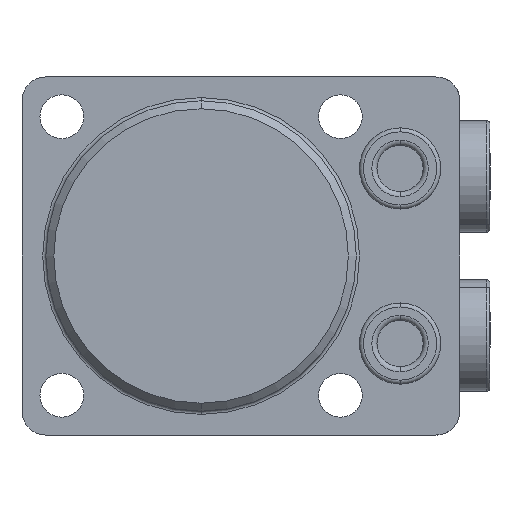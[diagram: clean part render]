
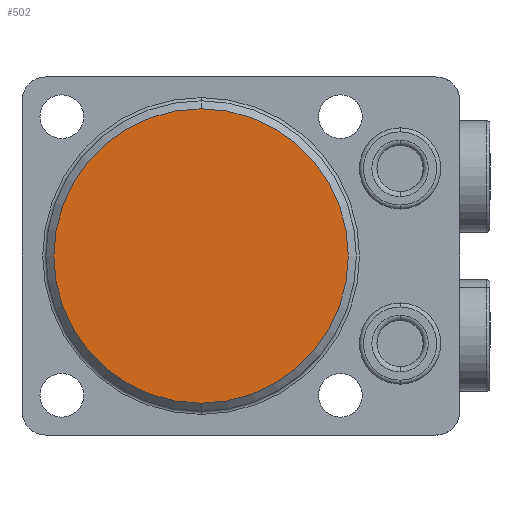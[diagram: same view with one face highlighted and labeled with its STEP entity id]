
A CAD part, front view. The second image highlights one B-rep face of the part: STEP entity #502.
In plain terms, the highlighted planar face has unit normal (0, -1, 0) as drawn and (0, 1, 0) by its records, which use the part's own axes.
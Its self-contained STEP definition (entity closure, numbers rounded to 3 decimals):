
#220=PLANE('',#3261);
#502=ADVANCED_FACE('',(#710),#220,.T.);
#710=FACE_OUTER_BOUND('',#898,.F.);
#898=EDGE_LOOP('',(#1889,#1890));
#1889=ORIENTED_EDGE('',*,*,#2725,.T.);
#1890=ORIENTED_EDGE('',*,*,#2664,.T.);
#2313=VERTEX_POINT('',#5058);
#2314=VERTEX_POINT('',#5059);
#2664=EDGE_CURVE('',#2313,#2314,#2917,.T.);
#2725=EDGE_CURVE('',#2314,#2313,#2939,.T.);
#2917=CIRCLE('',#3225,18.5);
#2939=CIRCLE('',#3260,18.5);
#3225=AXIS2_PLACEMENT_3D('',#5057,#3981,#3982);
#3260=AXIS2_PLACEMENT_3D('',#5187,#4085,#4086);
#3261=AXIS2_PLACEMENT_3D('',#5188,#4087,#4088);
#3981=DIRECTION('',(0.,-1.,0.));
#3982=DIRECTION('',(0.,0.,1.));
#4085=DIRECTION('',(0.,-1.,0.));
#4086=DIRECTION('',(0.,0.,1.));
#4087=DIRECTION('',(0.,1.,0.));
#4088=DIRECTION('',(0.,0.,1.));
#5057=CARTESIAN_POINT('',(0.,0.,0.));
#5058=CARTESIAN_POINT('',(0.,0.,-18.5));
#5059=CARTESIAN_POINT('',(0.,0.,18.5));
#5187=CARTESIAN_POINT('',(0.,0.,0.));
#5188=CARTESIAN_POINT('',(-22.5,0.,22.5));
